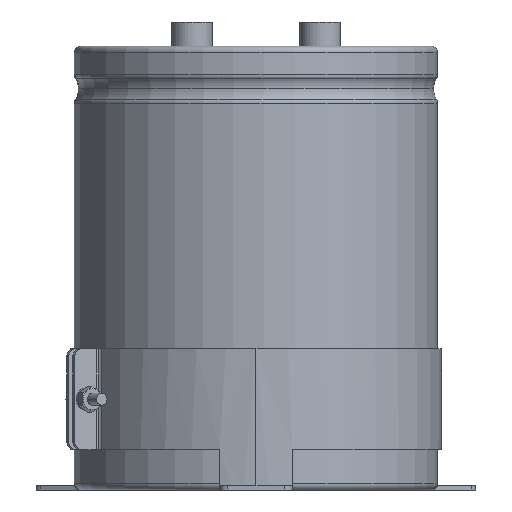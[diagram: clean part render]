
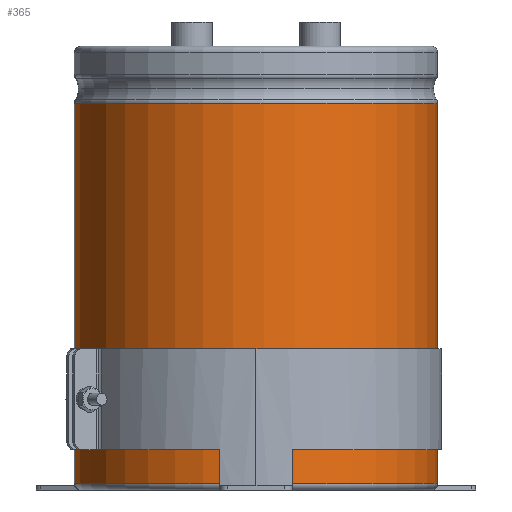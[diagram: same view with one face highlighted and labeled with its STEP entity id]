
A CAD part, left-side view. The second image highlights one B-rep face of the part: STEP entity #365.
In plain terms, the highlighted cylindrical face has radius 45 mm (diameter 90 mm), a partial arc.
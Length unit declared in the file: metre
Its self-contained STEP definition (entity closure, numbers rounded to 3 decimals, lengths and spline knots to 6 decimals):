
#365=ADVANCED_FACE('0:237',(#597),#598,.T.);
#597=FACE_OUTER_BOUND('',#1082,.T.);
#598=CYLINDRICAL_SURFACE('',#1083,0.045);
#1082=EDGE_LOOP('',(#2038,#2039,#2040,#2041));
#1083=AXIS2_PLACEMENT_3D('',#2042,#2043,#2044);
#2038=ORIENTED_EDGE('',*,*,#2995,.T.);
#2039=ORIENTED_EDGE('',*,*,#3004,.T.);
#2040=ORIENTED_EDGE('',*,*,#3006,.T.);
#2041=ORIENTED_EDGE('',*,*,#3007,.F.);
#2042=CARTESIAN_POINT('',(0.0,0.0,0.0));
#2043=DIRECTION('',(-0.0,0.0,1.0));
#2044=DIRECTION('',(0.0,1.0,0.0));
#2995=EDGE_CURVE('',#5626,#5634,#5635,.T.);
#3004=EDGE_CURVE('0:309',#5634,#5645,#5647,.T.);
#3006=EDGE_CURVE('0:312',#5645,#5649,#5650,.T.);
#3007=EDGE_CURVE('0:315',#5626,#5649,#5651,.T.);
#5626=VERTEX_POINT('',#6662);
#5634=VERTEX_POINT('',#6670);
#5635=LINE('',#6671,#6672);
#5645=VERTEX_POINT('',#6683);
#5647=CIRCLE('',#6685,0.045);
#5649=VERTEX_POINT('',#6687);
#5650=LINE('',#6688,#6689);
#5651=CIRCLE('',#6690,0.045);
#6662=CARTESIAN_POINT('',(0.,-0.045,0.0015));
#6670=CARTESIAN_POINT('',(0.,-0.045,0.0959));
#6671=CARTESIAN_POINT('',(0.,-0.045,0.0487));
#6672=VECTOR('',#8209,1.0);
#6683=CARTESIAN_POINT('',(-0.004,0.044822,0.0959));
#6685=AXIS2_PLACEMENT_3D('',#8226,#8227,#8228);
#6687=CARTESIAN_POINT('',(-0.004,0.044822,0.0015));
#6688=CARTESIAN_POINT('',(-0.004,0.044822,0.0959));
#6689=VECTOR('',#8229,0.001);
#6690=AXIS2_PLACEMENT_3D('',#8230,#8231,#8232);
#8209=DIRECTION('',(0.0,0.0,1.0));
#8226=CARTESIAN_POINT('',(0.0,0.0,0.0959));
#8227=DIRECTION('',(0.0,0.0,-1.0));
#8228=DIRECTION('',(0.0,1.0,0.0));
#8229=DIRECTION('',(0.0,0.0,-1.0));
#8230=CARTESIAN_POINT('',(0.0,0.0,0.0015));
#8231=DIRECTION('',(0.0,0.0,-1.0));
#8232=DIRECTION('',(0.0,1.0,0.0));
